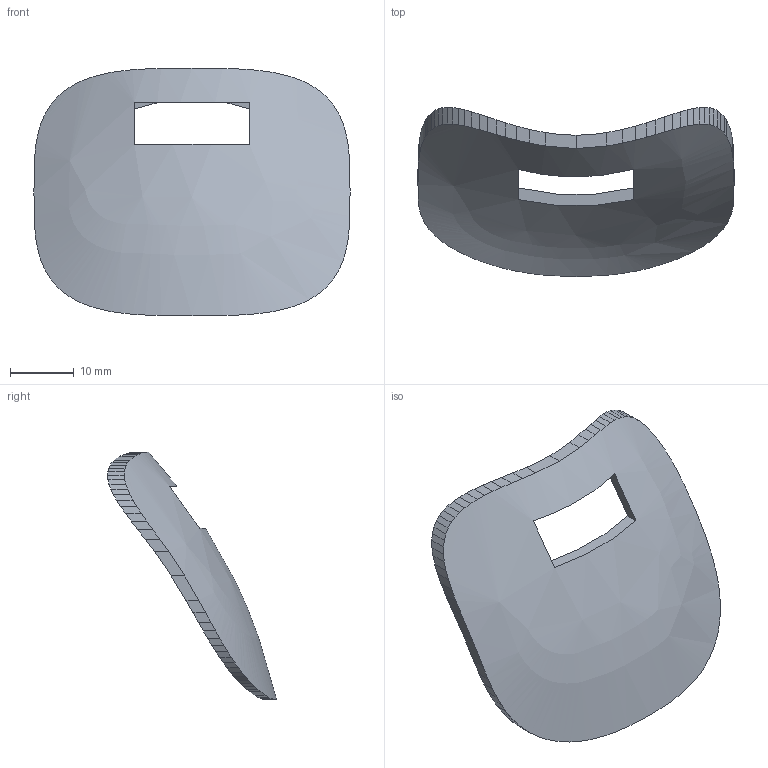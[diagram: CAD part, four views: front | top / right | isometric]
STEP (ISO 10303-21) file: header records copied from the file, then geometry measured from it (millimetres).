
FILE_DESCRIPTION(('FreeCAD Model'),'2;1');
FILE_NAME('Open CASCADE Shape Model','2026-11-20T08:25:34',('FreeCAD'),( 'FreeCAD'),'Open CASCADE STEP processor 7.8','FreeCAD','Unknown');
FILE_SCHEMA(('AUTOMOTIVE_DESIGN { 1 0 10303 214 1 1 1 1 }'));
Length unit declared in the file: millimetre
Products named in the file (1): Open CASCADE STEP translator 7.8 14
Bounding box: 49.45 x 26.46 x 38.7 mm (x, y, z)
Volume: 2993.9 mm3; surface area: 4306.6 mm2
Topology: 1 solids, 1 shells, 104 faces, 306 edges, 204 vertices
Faces by surface type: plane 102, bspline 2
Entity records: 4660 total; most frequent: CARTESIAN_POINT 2283, ORIENTED_EDGE 612, DIRECTION 310, EDGE_CURVE 306, VERTEX_POINT 204, B_SPLINE_CURVE_WITH_KNOTS 202, FACE_BOUND 106, EDGE_LOOP 106
